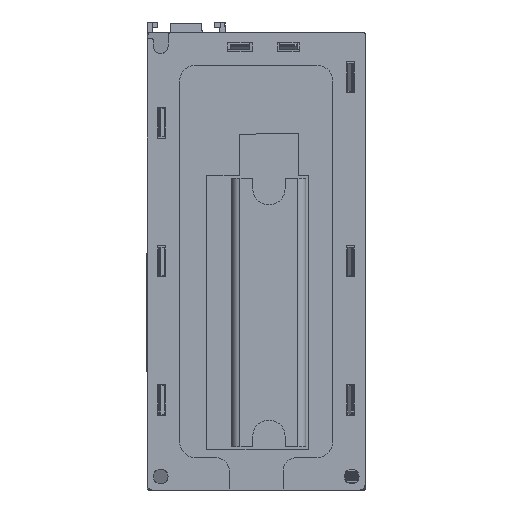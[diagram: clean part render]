
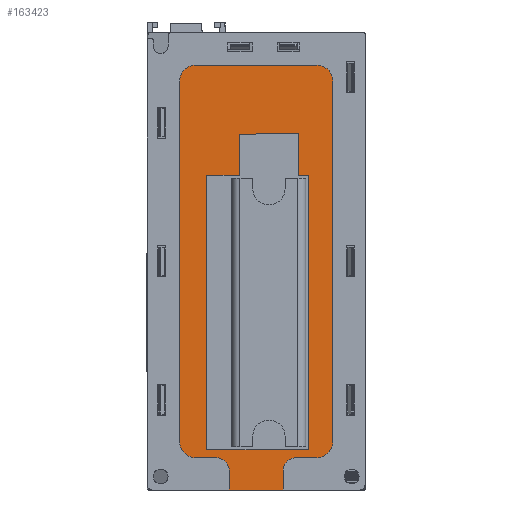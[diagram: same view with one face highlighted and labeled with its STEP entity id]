
A CAD part, front view. The second image highlights one B-rep face of the part: STEP entity #163423.
In plain terms, the highlighted planar face has unit normal (0, -1, 0).
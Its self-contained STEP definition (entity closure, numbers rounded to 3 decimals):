
#68343=DIRECTION('',(0.,0.,1.));
#68344=VECTOR('',#68343,7.);
#68345=CARTESIAN_POINT('',(10.,1.,-85.));
#68346=LINE('',#68345,#68344);
#68411=DIRECTION('',(1.,0.,0.));
#68412=VECTOR('',#68411,20.);
#68413=CARTESIAN_POINT('',(-10.,1.,-85.));
#68414=LINE('',#68413,#68412);
#88721=DIRECTION('',(0.,0.,-1.));
#88722=VECTOR('',#88721,7.);
#88723=CARTESIAN_POINT('',(-10.,1.,-78.));
#88724=LINE('',#88723,#88722);
#88737=DIRECTION('',(1.,0.,0.));
#88738=VECTOR('',#88737,7.5);
#88739=CARTESIAN_POINT('',(-22.5,1.,-73.));
#88740=LINE('',#88739,#88738);
#88749=CARTESIAN_POINT('',(-15.,1.,-78.));
#88750=DIRECTION('',(0.,-1.,0.));
#88751=DIRECTION('',(1.,0.,0.));
#88752=AXIS2_PLACEMENT_3D('',#88749,#88750,#88751);
#88754=CARTESIAN_POINT('',(-22.5,1.,-67.));
#88755=DIRECTION('',(0.,1.,0.));
#88756=DIRECTION('',(0.,0.,-1.));
#88757=AXIS2_PLACEMENT_3D('',#88754,#88755,#88756);
#88759=CARTESIAN_POINT('',(-22.5,1.,67.));
#88760=DIRECTION('',(0.,1.,0.));
#88761=DIRECTION('',(-1.,0.,0.));
#88762=AXIS2_PLACEMENT_3D('',#88759,#88760,#88761);
#88764=CARTESIAN_POINT('',(22.5,1.,67.));
#88765=DIRECTION('',(0.,1.,0.));
#88766=DIRECTION('',(0.,0.,1.));
#88767=AXIS2_PLACEMENT_3D('',#88764,#88765,#88766);
#88769=CARTESIAN_POINT('',(22.5,1.,-67.));
#88770=DIRECTION('',(0.,1.,0.));
#88771=DIRECTION('',(1.,0.,0.));
#88772=AXIS2_PLACEMENT_3D('',#88769,#88770,#88771);
#88774=CARTESIAN_POINT('',(15.,1.,-78.));
#88775=DIRECTION('',(0.,-1.,0.));
#88776=DIRECTION('',(0.,0.,1.));
#88777=AXIS2_PLACEMENT_3D('',#88774,#88775,#88776);
#88779=DIRECTION('',(0.,0.,1.));
#88780=VECTOR('',#88779,102.);
#88781=CARTESIAN_POINT('',(19.5,1.,-70.));
#88782=LINE('',#88781,#88780);
#88783=DIRECTION('',(-1.,0.,0.));
#88784=VECTOR('',#88783,3.75);
#88785=CARTESIAN_POINT('',(19.5,1.,32.));
#88786=LINE('',#88785,#88784);
#88787=DIRECTION('',(0.,0.,1.));
#88788=VECTOR('',#88787,15.638);
#88789=CARTESIAN_POINT('',(15.75,1.,32.));
#88790=LINE('',#88789,#88788);
#88791=DIRECTION('',(-1.,0.,-0.017));
#88792=VECTOR('',#88791,22.003);
#88793=CARTESIAN_POINT('',(15.75,1.,47.638));
#88794=LINE('',#88793,#88792);
#88795=DIRECTION('',(0.,0.,-1.));
#88796=VECTOR('',#88795,15.254);
#88797=CARTESIAN_POINT('',(-6.25,1.,47.254));
#88798=LINE('',#88797,#88796);
#88799=DIRECTION('',(-1.,0.,0.));
#88800=VECTOR('',#88799,12.15);
#88801=CARTESIAN_POINT('',(-6.25,1.,32.));
#88802=LINE('',#88801,#88800);
#88803=DIRECTION('',(0.,0.,-1.));
#88804=VECTOR('',#88803,102.);
#88805=CARTESIAN_POINT('',(-18.4,1.,32.));
#88806=LINE('',#88805,#88804);
#88807=DIRECTION('',(1.,0.,0.));
#88808=VECTOR('',#88807,37.9);
#88809=CARTESIAN_POINT('',(-18.4,1.,-70.));
#88810=LINE('',#88809,#88808);
#88811=DIRECTION('',(0.,0.,-1.));
#88812=VECTOR('',#88811,134.);
#88813=CARTESIAN_POINT('',(-28.5,1.,67.));
#88814=LINE('',#88813,#88812);
#88823=DIRECTION('',(-1.,0.,0.));
#88824=VECTOR('',#88823,45.);
#88825=CARTESIAN_POINT('',(22.5,1.,73.));
#88826=LINE('',#88825,#88824);
#88835=DIRECTION('',(0.,0.,1.));
#88836=VECTOR('',#88835,134.);
#88837=CARTESIAN_POINT('',(28.5,1.,-67.));
#88838=LINE('',#88837,#88836);
#88847=DIRECTION('',(1.,0.,0.));
#88848=VECTOR('',#88847,7.5);
#88849=CARTESIAN_POINT('',(15.,1.,-73.));
#88850=LINE('',#88849,#88848);
#117251=CARTESIAN_POINT('',(10.,1.,-78.));
#117252=VERTEX_POINT('',#117251);
#117253=CARTESIAN_POINT('',(15.,1.,-73.));
#117254=VERTEX_POINT('',#117253);
#117255=CARTESIAN_POINT('',(10.,1.,-85.));
#117256=VERTEX_POINT('',#117255);
#117287=CARTESIAN_POINT('',(-10.,1.,-85.));
#117288=VERTEX_POINT('',#117287);
#121357=CARTESIAN_POINT('',(-10.,1.,-78.));
#121358=VERTEX_POINT('',#121357);
#121359=CARTESIAN_POINT('',(-15.,1.,-73.));
#121360=VERTEX_POINT('',#121359);
#121361=CARTESIAN_POINT('',(-22.5,1.,-73.));
#121362=VERTEX_POINT('',#121361);
#121363=CARTESIAN_POINT('',(-28.5,1.,-67.));
#121364=VERTEX_POINT('',#121363);
#121365=CARTESIAN_POINT('',(-28.5,1.,67.));
#121366=VERTEX_POINT('',#121365);
#121367=CARTESIAN_POINT('',(-22.5,1.,73.));
#121368=VERTEX_POINT('',#121367);
#121369=CARTESIAN_POINT('',(22.5,1.,73.));
#121370=VERTEX_POINT('',#121369);
#121371=CARTESIAN_POINT('',(28.5,1.,67.));
#121372=VERTEX_POINT('',#121371);
#121373=CARTESIAN_POINT('',(28.5,1.,-67.));
#121374=VERTEX_POINT('',#121373);
#121375=CARTESIAN_POINT('',(22.5,1.,-73.));
#121376=VERTEX_POINT('',#121375);
#121377=CARTESIAN_POINT('',(19.5,1.,-70.));
#121378=CARTESIAN_POINT('',(19.5,1.,32.));
#121379=VERTEX_POINT('',#121377);
#121380=VERTEX_POINT('',#121378);
#121381=CARTESIAN_POINT('',(15.75,1.,32.));
#121382=VERTEX_POINT('',#121381);
#121383=CARTESIAN_POINT('',(15.75,1.,47.638));
#121384=VERTEX_POINT('',#121383);
#121385=CARTESIAN_POINT('',(-6.25,1.,47.254));
#121386=VERTEX_POINT('',#121385);
#121387=CARTESIAN_POINT('',(-6.25,1.,32.));
#121388=VERTEX_POINT('',#121387);
#121389=CARTESIAN_POINT('',(-18.4,1.,32.));
#121390=VERTEX_POINT('',#121389);
#121391=CARTESIAN_POINT('',(-18.4,1.,-70.));
#121392=VERTEX_POINT('',#121391);
#163377=CARTESIAN_POINT('',(0.,1.,0.));
#163378=DIRECTION('',(0.,-1.,0.));
#163379=DIRECTION('',(0.,0.,-1.));
#163380=AXIS2_PLACEMENT_3D('',#163377,#163378,#163379);
#163381=PLANE('',#163380);
#163382=ORIENTED_EDGE('',*,*,#163328,.F.);
#163383=ORIENTED_EDGE('',*,*,#163344,.T.);
#163384=ORIENTED_EDGE('',*,*,#163358,.F.);
#163385=ORIENTED_EDGE('',*,*,#163368,.T.);
#163387=ORIENTED_EDGE('',*,*,#163386,.F.);
#163389=ORIENTED_EDGE('',*,*,#163388,.T.);
#163391=ORIENTED_EDGE('',*,*,#163390,.F.);
#163393=ORIENTED_EDGE('',*,*,#163392,.T.);
#163395=ORIENTED_EDGE('',*,*,#163394,.F.);
#163397=ORIENTED_EDGE('',*,*,#163396,.T.);
#163399=ORIENTED_EDGE('',*,*,#163398,.F.);
#163400=ORIENTED_EDGE('',*,*,#134293,.T.);
#163401=ORIENTED_EDGE('',*,*,#134309,.F.);
#163402=ORIENTED_EDGE('',*,*,#134346,.F.);
#163403=EDGE_LOOP('',(#163382,#163383,#163384,#163385,#163387,#163389,#163391,
#163393,#163395,#163397,#163399,#163400,#163401,#163402));
#163404=FACE_OUTER_BOUND('',#163403,.F.);
#163406=ORIENTED_EDGE('',*,*,#163405,.T.);
#163408=ORIENTED_EDGE('',*,*,#163407,.T.);
#163410=ORIENTED_EDGE('',*,*,#163409,.T.);
#163412=ORIENTED_EDGE('',*,*,#163411,.T.);
#163414=ORIENTED_EDGE('',*,*,#163413,.T.);
#163416=ORIENTED_EDGE('',*,*,#163415,.T.);
#163418=ORIENTED_EDGE('',*,*,#163417,.T.);
#163420=ORIENTED_EDGE('',*,*,#163419,.T.);
#163421=EDGE_LOOP('',(#163406,#163408,#163410,#163412,#163414,#163416,#163418,
#163420));
#163422=FACE_BOUND('',#163421,.F.);
#163423=ADVANCED_FACE('',(#163404,#163422),#163381,.T.);
#88753=CIRCLE('',#88752,5.);
#88758=CIRCLE('',#88757,6.);
#88763=CIRCLE('',#88762,6.);
#88768=CIRCLE('',#88767,6.);
#88773=CIRCLE('',#88772,6.);
#88778=CIRCLE('',#88777,5.);
#134293=EDGE_CURVE('',#117254,#117252,#88778,.T.);
#134309=EDGE_CURVE('',#117256,#117252,#68346,.T.);
#134346=EDGE_CURVE('',#117288,#117256,#68414,.T.);
#163328=EDGE_CURVE('',#121358,#117288,#88724,.T.);
#163344=EDGE_CURVE('',#121358,#121360,#88753,.T.);
#163358=EDGE_CURVE('',#121362,#121360,#88740,.T.);
#163368=EDGE_CURVE('',#121362,#121364,#88758,.T.);
#163386=EDGE_CURVE('',#121366,#121364,#88814,.T.);
#163388=EDGE_CURVE('',#121366,#121368,#88763,.T.);
#163390=EDGE_CURVE('',#121370,#121368,#88826,.T.);
#163392=EDGE_CURVE('',#121370,#121372,#88768,.T.);
#163394=EDGE_CURVE('',#121374,#121372,#88838,.T.);
#163396=EDGE_CURVE('',#121374,#121376,#88773,.T.);
#163398=EDGE_CURVE('',#117254,#121376,#88850,.T.);
#163405=EDGE_CURVE('',#121379,#121380,#88782,.T.);
#163407=EDGE_CURVE('',#121380,#121382,#88786,.T.);
#163409=EDGE_CURVE('',#121382,#121384,#88790,.T.);
#163411=EDGE_CURVE('',#121384,#121386,#88794,.T.);
#163413=EDGE_CURVE('',#121386,#121388,#88798,.T.);
#163415=EDGE_CURVE('',#121388,#121390,#88802,.T.);
#163417=EDGE_CURVE('',#121390,#121392,#88806,.T.);
#163419=EDGE_CURVE('',#121392,#121379,#88810,.T.);
